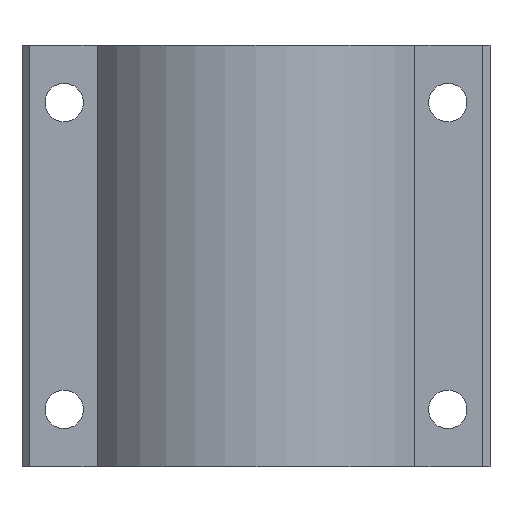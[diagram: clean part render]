
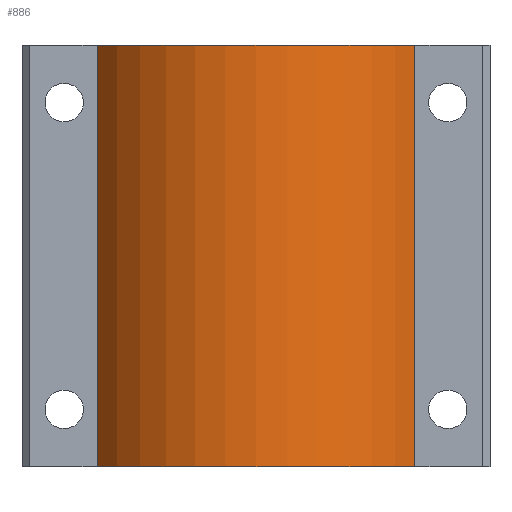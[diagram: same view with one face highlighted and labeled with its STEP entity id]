
A CAD part, front view. The second image highlights one B-rep face of the part: STEP entity #886.
In plain terms, the highlighted cylindrical face has radius 50 mm (diameter 100 mm), a partial arc.
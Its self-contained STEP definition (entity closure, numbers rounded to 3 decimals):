
#689=CARTESIAN_POINT('',(40.716,-23.802,-5.));
#690=VERTEX_POINT('',#689);
#697=CARTESIAN_POINT('',(-42.133,-23.802,-5.));
#698=VERTEX_POINT('',#697);
#699=CARTESIAN_POINT('',(-0.709,4.198,-5.0));
#700=DIRECTION('',(0.0,0.0,1.));
#701=DIRECTION('',(0.828,0.56,0.0));
#702=AXIS2_PLACEMENT_3D('',#699,#700,#701);
#703=CIRCLE('',#702,50.0);
#704=EDGE_CURVE('',#698,#690,#703,.T.);
#835=CARTESIAN_POINT('',(40.716,-23.802,105.0));
#836=VERTEX_POINT('',#835);
#843=CARTESIAN_POINT('',(40.716,-23.802,105.0));
#844=DIRECTION('',(0.0,0.0,-1.0));
#845=VECTOR('',#844,110.);
#846=LINE('',#843,#845);
#847=EDGE_CURVE('',#836,#690,#846,.T.);
#862=CARTESIAN_POINT('',(-0.709,4.198,50.0));
#863=DIRECTION('',(0.0,0.0,1.0));
#864=DIRECTION('',(0.828,0.56,0.0));
#865=AXIS2_PLACEMENT_3D('',#862,#863,#864);
#866=CYLINDRICAL_SURFACE('',#865,50.);
#867=CARTESIAN_POINT('',(-42.133,-23.802,105.0));
#868=VERTEX_POINT('',#867);
#869=CARTESIAN_POINT('',(-0.709,4.198,105.0));
#870=DIRECTION('',(0.0,0.0,-1.));
#871=DIRECTION('',(0.828,0.56,0.0));
#872=AXIS2_PLACEMENT_3D('',#869,#870,#871);
#873=CIRCLE('',#872,50.0);
#874=EDGE_CURVE('',#836,#868,#873,.T.);
#875=ORIENTED_EDGE('',*,*,#874,.T.);
#876=CARTESIAN_POINT('',(-42.133,-23.802,105.0));
#877=DIRECTION('',(0.0,0.0,-1.0));
#878=VECTOR('',#877,110.);
#879=LINE('',#876,#878);
#880=EDGE_CURVE('',#868,#698,#879,.T.);
#881=ORIENTED_EDGE('',*,*,#880,.T.);
#882=ORIENTED_EDGE('',*,*,#704,.T.);
#883=ORIENTED_EDGE('',*,*,#847,.F.);
#884=EDGE_LOOP('',(#875,#881,#882,#883));
#885=FACE_OUTER_BOUND('',#884,.T.);
#886=ADVANCED_FACE('',(#885),#866,.T.);
